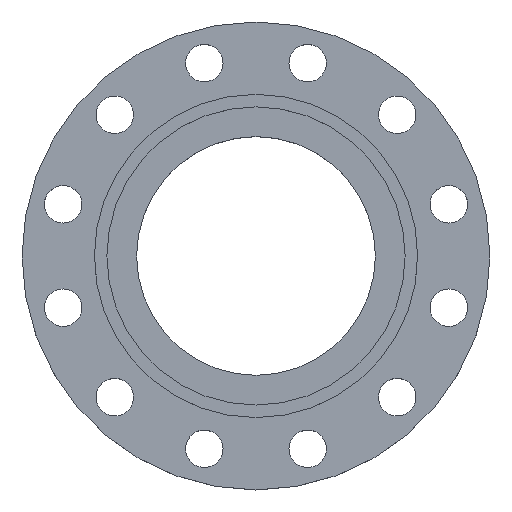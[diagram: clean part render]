
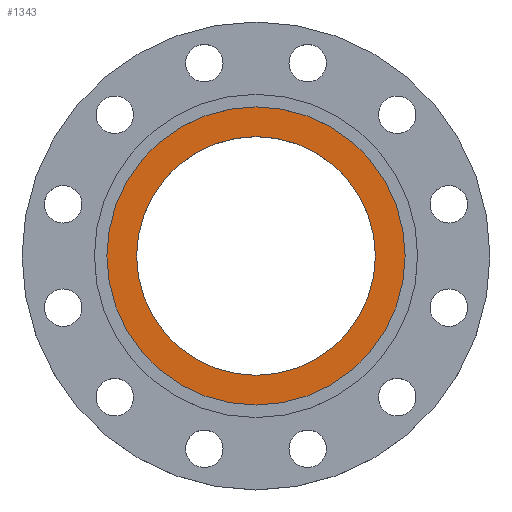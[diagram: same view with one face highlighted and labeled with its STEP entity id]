
A CAD part, top view. The second image highlights one B-rep face of the part: STEP entity #1343.
In plain terms, the highlighted planar face has unit normal (0, 0, 1).
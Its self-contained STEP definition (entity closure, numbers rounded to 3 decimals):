
#39 = CARTESIAN_POINT ( 'NONE',  ( 119.5, 0., -5. ) ) ;
#95 = EDGE_CURVE ( 'NONE', #1375, #1373, #577, .T. ) ;
#115 = AXIS2_PLACEMENT_3D ( 'NONE', #1143, #725, #721 ) ;
#221 = DIRECTION ( 'NONE',  ( -1., 0., 0. ) ) ;
#222 = DIRECTION ( 'NONE',  ( 0., 0., -1. ) ) ;
#223 = CARTESIAN_POINT ( 'NONE',  ( 0., 0., -5. ) ) ;
#296 = CARTESIAN_POINT ( 'NONE',  ( -95.67, 0., -5. ) ) ;
#372 = DIRECTION ( 'NONE',  ( 1., 0., 0. ) ) ;
#374 = DIRECTION ( 'NONE',  ( 0., 0., 1. ) ) ;
#375 = CARTESIAN_POINT ( 'NONE',  ( 0., 0., -5. ) ) ;
#487 = CARTESIAN_POINT ( 'NONE',  ( 95.67, 0., -5. ) ) ;
#502 = DIRECTION ( 'NONE',  ( 1., 0., 0. ) ) ;
#503 = DIRECTION ( 'NONE',  ( 0., 0., 1. ) ) ;
#504 = CARTESIAN_POINT ( 'NONE',  ( 0., 0., -5. ) ) ;
#528 = CARTESIAN_POINT ( 'NONE',  ( 119.5, 0., -5. ) ) ;
#552 = CIRCLE ( 'NONE', #569, 95.67 ) ;
#569 = AXIS2_PLACEMENT_3D ( 'NONE', #504, #503, #502 ) ;
#577 = CIRCLE ( 'NONE', #115, 119.5 ) ;
#700 = FACE_BOUND ( 'NONE', #1327, .T. ) ;
#721 = DIRECTION ( 'NONE',  ( -1., 0., 0. ) ) ;
#725 = DIRECTION ( 'NONE',  ( 0., 0., -1. ) ) ;
#771 = CIRCLE ( 'NONE', #774, 95.67 ) ;
#774 = AXIS2_PLACEMENT_3D ( 'NONE', #375, #374, #372 ) ;
#805 = AXIS2_PLACEMENT_3D ( 'NONE', #223, #222, #221 ) ;
#806 = CIRCLE ( 'NONE', #805, 119.5 ) ;
#827 = EDGE_CURVE ( 'NONE', #1155, #837, #552, .T. ) ;
#837 = VERTEX_POINT ( 'NONE', #487 ) ;
#856 = CARTESIAN_POINT ( 'NONE',  ( -119.5, 0., -5. ) ) ;
#903 = AXIS2_PLACEMENT_3D ( 'NONE', #528, #1039, #1234 ) ;
#1018 = EDGE_CURVE ( 'NONE', #837, #1155, #771, .T. ) ;
#1039 = DIRECTION ( 'NONE',  ( 0., 0., 1. ) ) ;
#1067 = ORIENTED_EDGE ( 'NONE', *, *, #1018, .F. ) ;
#1068 = ORIENTED_EDGE ( 'NONE', *, *, #827, .F. ) ;
#1070 = ORIENTED_EDGE ( 'NONE', *, *, #1189, .F. ) ;
#1071 = ORIENTED_EDGE ( 'NONE', *, *, #95, .F. ) ;
#1143 = CARTESIAN_POINT ( 'NONE',  ( 0., 0., -5. ) ) ;
#1155 = VERTEX_POINT ( 'NONE', #296 ) ;
#1159 = FACE_OUTER_BOUND ( 'NONE', #1315, .T. ) ;
#1189 = EDGE_CURVE ( 'NONE', #1373, #1375, #806, .T. ) ;
#1234 = DIRECTION ( 'NONE',  ( 1., 0., 0. ) ) ;
#1293 = PLANE ( 'NONE',  #903 ) ;
#1315 = EDGE_LOOP ( 'NONE', ( #1070, #1071 ) ) ;
#1327 = EDGE_LOOP ( 'NONE', ( #1067, #1068 ) ) ;
#1343 = ADVANCED_FACE ( 'NONE', ( #700, #1159 ), #1293, .T. ) ;
#1373 = VERTEX_POINT ( 'NONE', #856 ) ;
#1375 = VERTEX_POINT ( 'NONE', #39 ) ;
